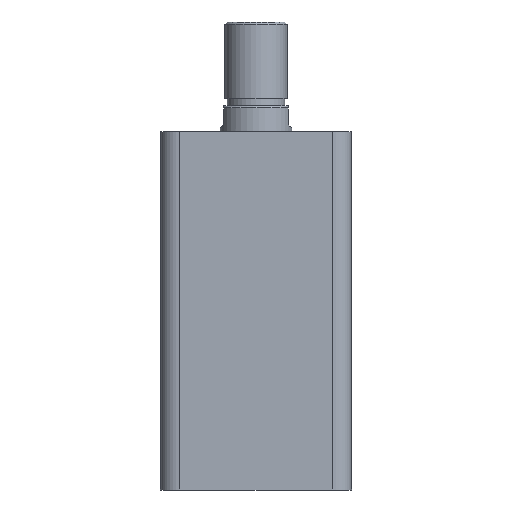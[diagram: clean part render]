
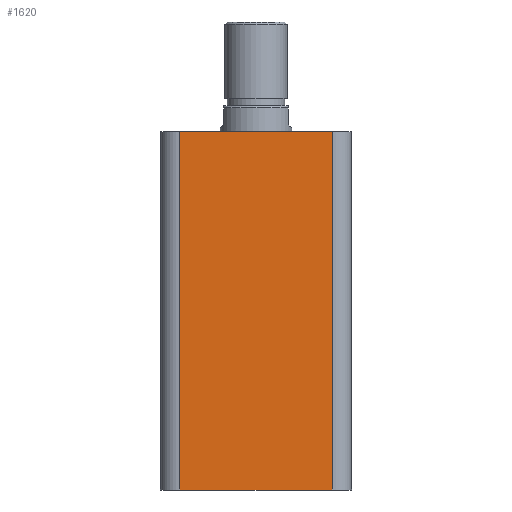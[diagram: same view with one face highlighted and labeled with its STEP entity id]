
A CAD part, front view. The second image highlights one B-rep face of the part: STEP entity #1620.
In plain terms, the highlighted planar face has unit normal (0, -1, 0).
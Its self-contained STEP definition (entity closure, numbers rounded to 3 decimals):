
#114 = CARTESIAN_POINT ( 'NONE',  ( -32., -40., 150. ) ) ;
#183 = CARTESIAN_POINT ( 'NONE',  ( 32., -40., 150. ) ) ;
#293 = CARTESIAN_POINT ( 'NONE',  ( -32., -40., 0. ) ) ;
#303 = CARTESIAN_POINT ( 'NONE',  ( 32., -40., 0. ) ) ;
#397 = FACE_OUTER_BOUND ( 'NONE', #577, .T. ) ;
#426 = VECTOR ( 'NONE', #2314, 1000. ) ;
#429 = LINE ( 'NONE', #2317, #426 ) ;
#434 = VECTOR ( 'NONE', #2332, 1000. ) ;
#435 = VECTOR ( 'NONE', #2347, 1000. ) ;
#437 = LINE ( 'NONE', #2337, #434 ) ;
#443 = VECTOR ( 'NONE', #2161, 1000. ) ;
#444 = LINE ( 'NONE', #2348, #435 ) ;
#445 = LINE ( 'NONE', #2169, #443 ) ;
#577 = EDGE_LOOP ( 'NONE', ( #1107, #1108, #1110, #1111 ) ) ;
#643 = VERTEX_POINT ( 'NONE', #183 ) ;
#655 = VERTEX_POINT ( 'NONE', #114 ) ;
#683 = VERTEX_POINT ( 'NONE', #303 ) ;
#692 = VERTEX_POINT ( 'NONE', #293 ) ;
#993 = EDGE_CURVE ( 'NONE', #683, #643, #445, .T. ) ;
#1107 = ORIENTED_EDGE ( 'NONE', *, *, #1594, .F. ) ;
#1108 = ORIENTED_EDGE ( 'NONE', *, *, #1589, .T. ) ;
#1110 = ORIENTED_EDGE ( 'NONE', *, *, #1585, .T. ) ;
#1111 = ORIENTED_EDGE ( 'NONE', *, *, #993, .T. ) ;
#1585 = EDGE_CURVE ( 'NONE', #692, #683, #444, .T. ) ;
#1589 = EDGE_CURVE ( 'NONE', #655, #692, #437, .T. ) ;
#1594 = EDGE_CURVE ( 'NONE', #655, #643, #429, .T. ) ;
#1620 = ADVANCED_FACE ( 'NONE', ( #397 ), #2226, .F. ) ;
#2161 = DIRECTION ( 'NONE',  ( 0., 0., 1. ) ) ;
#2169 = CARTESIAN_POINT ( 'NONE',  ( 32., -40., 150. ) ) ;
#2219 = DIRECTION ( 'NONE',  ( 0., 0., 1. ) ) ;
#2225 = DIRECTION ( 'NONE',  ( 0., 1., 0. ) ) ;
#2226 = PLANE ( 'NONE',  #2631 ) ;
#2234 = CARTESIAN_POINT ( 'NONE',  ( -40., -40., 150. ) ) ;
#2314 = DIRECTION ( 'NONE',  ( 1., 0., 0. ) ) ;
#2317 = CARTESIAN_POINT ( 'NONE',  ( -40., -40., 150. ) ) ;
#2332 = DIRECTION ( 'NONE',  ( 0., 0., -1. ) ) ;
#2337 = CARTESIAN_POINT ( 'NONE',  ( -32., -40., 150. ) ) ;
#2347 = DIRECTION ( 'NONE',  ( 1., 0., 0. ) ) ;
#2348 = CARTESIAN_POINT ( 'NONE',  ( -40., -40., 0. ) ) ;
#2631 = AXIS2_PLACEMENT_3D ( 'NONE', #2234, #2225, #2219 ) ;
